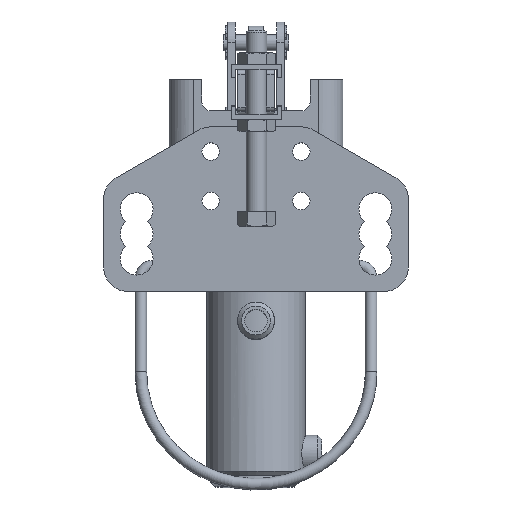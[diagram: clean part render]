
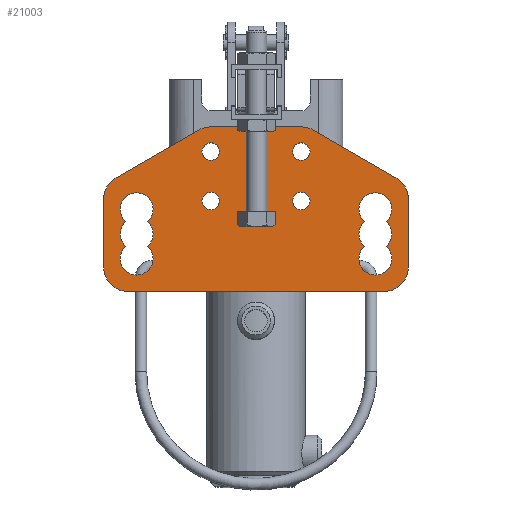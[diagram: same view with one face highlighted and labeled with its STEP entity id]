
A CAD part, top view. The second image highlights one B-rep face of the part: STEP entity #21003.
In plain terms, the highlighted planar face has unit normal (0, 0, 1).
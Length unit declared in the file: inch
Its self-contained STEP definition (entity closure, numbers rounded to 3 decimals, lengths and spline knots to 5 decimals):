
#20205=CARTESIAN_POINT('',(11.15658,1.92525,0.02831));
#20206=VERTEX_POINT('',#20205);
#20207=CARTESIAN_POINT('',(11.10422,1.92525,0.02831));
#20208=DIRECTION('',(0.0,0.0,1.0));
#20209=DIRECTION('',(0.0,1.0,0.0));
#20210=AXIS2_PLACEMENT_3D('',#20207,#20208,#20209);
#20211=CIRCLE('',#20210,0.05236);
#20212=EDGE_CURVE('',#20206,#20206,#20211,.T.);
#20233=CARTESIAN_POINT('',(10.61524,1.92525,0.02831));
#20234=VERTEX_POINT('',#20233);
#20235=CARTESIAN_POINT('',(10.56288,1.92525,0.02831));
#20236=DIRECTION('',(0.0,0.0,1.0));
#20237=DIRECTION('',(0.0,1.0,0.0));
#20238=AXIS2_PLACEMENT_3D('',#20235,#20236,#20237);
#20239=CIRCLE('',#20238,0.05236);
#20240=EDGE_CURVE('',#20234,#20234,#20239,.T.);
#20261=CARTESIAN_POINT('',(10.61524,1.62997,0.02831));
#20262=VERTEX_POINT('',#20261);
#20263=CARTESIAN_POINT('',(10.56288,1.62997,0.02831));
#20264=DIRECTION('',(0.0,0.0,1.0));
#20265=DIRECTION('',(0.0,1.0,0.0));
#20266=AXIS2_PLACEMENT_3D('',#20263,#20264,#20265);
#20267=CIRCLE('',#20266,0.05236);
#20268=EDGE_CURVE('',#20262,#20262,#20267,.T.);
#20289=CARTESIAN_POINT('',(10.18507,1.3593,0.02831));
#20290=VERTEX_POINT('',#20289);
#20291=CARTESIAN_POINT('',(10.18507,1.50694,0.02831));
#20292=VERTEX_POINT('',#20291);
#20293=CARTESIAN_POINT('',(10.11997,1.43312,0.02831));
#20294=DIRECTION('',(0.0,0.0,1.0));
#20295=DIRECTION('',(1.0,0.0,0.0));
#20296=AXIS2_PLACEMENT_3D('',#20293,#20294,#20295);
#20297=CIRCLE('',#20296,0.09843);
#20298=EDGE_CURVE('',#20290,#20292,#20297,.T.);
#20331=CARTESIAN_POINT('',(10.05487,1.50694,0.02831));
#20332=VERTEX_POINT('',#20331);
#20333=CARTESIAN_POINT('',(10.11997,1.58076,0.02831));
#20334=DIRECTION('',(0.0,0.0,1.0));
#20335=DIRECTION('',(0.0,1.0,0.0));
#20336=AXIS2_PLACEMENT_3D('',#20333,#20334,#20335);
#20337=CIRCLE('',#20336,0.09843);
#20338=EDGE_CURVE('',#20292,#20332,#20337,.T.);
#20364=CARTESIAN_POINT('',(10.05487,1.3593,0.02831));
#20365=VERTEX_POINT('',#20364);
#20366=CARTESIAN_POINT('',(10.11997,1.43312,0.02831));
#20367=DIRECTION('',(0.0,0.0,1.0));
#20368=DIRECTION('',(-1.0,0.0,0.0));
#20369=AXIS2_PLACEMENT_3D('',#20366,#20367,#20368);
#20370=CIRCLE('',#20369,0.09843);
#20371=EDGE_CURVE('',#20332,#20365,#20370,.T.);
#20397=CARTESIAN_POINT('',(10.11997,1.28548,0.02831));
#20398=DIRECTION('',(0.0,0.0,1.0));
#20399=DIRECTION('',(0.0,-1.0,0.0));
#20400=AXIS2_PLACEMENT_3D('',#20397,#20398,#20399);
#20401=CIRCLE('',#20400,0.09843);
#20402=EDGE_CURVE('',#20365,#20290,#20401,.T.);
#20421=CARTESIAN_POINT('',(11.15658,1.62997,0.02831));
#20422=VERTEX_POINT('',#20421);
#20423=CARTESIAN_POINT('',(11.10422,1.62997,0.02831));
#20424=DIRECTION('',(0.0,0.0,1.0));
#20425=DIRECTION('',(0.0,1.0,0.0));
#20426=AXIS2_PLACEMENT_3D('',#20423,#20424,#20425);
#20427=CIRCLE('',#20426,0.05236);
#20428=EDGE_CURVE('',#20422,#20422,#20427,.T.);
#20449=CARTESIAN_POINT('',(11.48203,1.50694,0.02831));
#20450=VERTEX_POINT('',#20449);
#20451=CARTESIAN_POINT('',(11.48203,1.3593,0.02831));
#20452=VERTEX_POINT('',#20451);
#20453=CARTESIAN_POINT('',(11.54713,1.43312,0.02831));
#20454=DIRECTION('',(0.0,0.0,1.0));
#20455=DIRECTION('',(-1.0,0.0,0.0));
#20456=AXIS2_PLACEMENT_3D('',#20453,#20454,#20455);
#20457=CIRCLE('',#20456,0.09843);
#20458=EDGE_CURVE('',#20450,#20452,#20457,.T.);
#20491=CARTESIAN_POINT('',(11.61224,1.3593,0.02831));
#20492=VERTEX_POINT('',#20491);
#20493=CARTESIAN_POINT('',(11.54713,1.28548,0.02831));
#20494=DIRECTION('',(0.0,0.0,1.0));
#20495=DIRECTION('',(0.0,-1.0,0.0));
#20496=AXIS2_PLACEMENT_3D('',#20493,#20494,#20495);
#20497=CIRCLE('',#20496,0.09843);
#20498=EDGE_CURVE('',#20452,#20492,#20497,.T.);
#20524=CARTESIAN_POINT('',(11.61224,1.50694,0.02831));
#20525=VERTEX_POINT('',#20524);
#20526=CARTESIAN_POINT('',(11.54713,1.43312,0.02831));
#20527=DIRECTION('',(0.0,0.0,1.0));
#20528=DIRECTION('',(1.0,0.0,0.0));
#20529=AXIS2_PLACEMENT_3D('',#20526,#20527,#20528);
#20530=CIRCLE('',#20529,0.09843);
#20531=EDGE_CURVE('',#20492,#20525,#20530,.T.);
#20557=CARTESIAN_POINT('',(11.54713,1.58076,0.02831));
#20558=DIRECTION('',(0.0,0.0,1.0));
#20559=DIRECTION('',(0.0,1.0,0.0));
#20560=AXIS2_PLACEMENT_3D('',#20557,#20558,#20559);
#20561=CIRCLE('',#20560,0.09843);
#20562=EDGE_CURVE('',#20525,#20450,#20561,.T.);
#20581=CARTESIAN_POINT('',(10.07075,1.08863,0.02831));
#20582=VERTEX_POINT('',#20581);
#20583=CARTESIAN_POINT('',(9.92312,1.23627,0.02831));
#20584=VERTEX_POINT('',#20583);
#20585=CARTESIAN_POINT('',(10.07075,1.23627,0.02831));
#20586=DIRECTION('',(0.0,0.0,-1.0));
#20587=DIRECTION('',(-0.707,-0.707,0.0));
#20588=AXIS2_PLACEMENT_3D('',#20585,#20586,#20587);
#20589=CIRCLE('',#20588,0.14764);
#20590=EDGE_CURVE('',#20582,#20584,#20589,.T.);
#20623=CARTESIAN_POINT('',(9.92312,1.64112,0.02831));
#20624=VERTEX_POINT('',#20623);
#20625=CARTESIAN_POINT('',(9.92312,1.23627,0.02831));
#20626=DIRECTION('',(0.0,1.0,0.0));
#20627=VECTOR('',#20626,0.40485);
#20628=LINE('',#20625,#20627);
#20629=EDGE_CURVE('',#20584,#20624,#20628,.T.);
#20654=CARTESIAN_POINT('',(9.99694,1.76897,0.02831));
#20655=VERTEX_POINT('',#20654);
#20656=CARTESIAN_POINT('',(10.07075,1.64112,0.02831));
#20657=DIRECTION('',(0.0,0.0,-1.0));
#20658=DIRECTION('',(-0.866,0.5,0.0));
#20659=AXIS2_PLACEMENT_3D('',#20656,#20657,#20658);
#20660=CIRCLE('',#20659,0.14764);
#20661=EDGE_CURVE('',#20624,#20655,#20660,.T.);
#20687=CARTESIAN_POINT('',(10.48906,2.0531,0.02831));
#20688=VERTEX_POINT('',#20687);
#20689=CARTESIAN_POINT('',(9.99694,1.76897,0.02831));
#20690=DIRECTION('',(0.866,0.5,0.0));
#20691=VECTOR('',#20690,0.56826);
#20692=LINE('',#20689,#20691);
#20693=EDGE_CURVE('',#20655,#20688,#20692,.T.);
#20718=CARTESIAN_POINT('',(10.56288,2.07288,0.02831));
#20719=VERTEX_POINT('',#20718);
#20720=CARTESIAN_POINT('',(10.56288,1.92525,0.02831));
#20721=DIRECTION('',(0.0,0.0,-1.0));
#20722=DIRECTION('',(-0.259,0.966,0.0));
#20723=AXIS2_PLACEMENT_3D('',#20720,#20721,#20722);
#20724=CIRCLE('',#20723,0.14764);
#20725=EDGE_CURVE('',#20688,#20719,#20724,.T.);
#20751=CARTESIAN_POINT('',(11.10422,2.07288,0.02831));
#20752=VERTEX_POINT('',#20751);
#20753=CARTESIAN_POINT('',(10.56288,2.07288,0.02831));
#20754=DIRECTION('',(1.0,0.0,0.0));
#20755=VECTOR('',#20754,0.54134);
#20756=LINE('',#20753,#20755);
#20757=EDGE_CURVE('',#20719,#20752,#20756,.T.);
#20782=CARTESIAN_POINT('',(11.17804,2.0531,0.02831));
#20783=VERTEX_POINT('',#20782);
#20784=CARTESIAN_POINT('',(11.10422,1.92525,0.02831));
#20785=DIRECTION('',(0.0,0.0,-1.0));
#20786=DIRECTION('',(0.259,0.966,0.0));
#20787=AXIS2_PLACEMENT_3D('',#20784,#20785,#20786);
#20788=CIRCLE('',#20787,0.14764);
#20789=EDGE_CURVE('',#20752,#20783,#20788,.T.);
#20815=CARTESIAN_POINT('',(11.67016,1.76897,0.02831));
#20816=VERTEX_POINT('',#20815);
#20817=CARTESIAN_POINT('',(11.17804,2.0531,0.02831));
#20818=DIRECTION('',(0.866,-0.5,0.0));
#20819=VECTOR('',#20818,0.56826);
#20820=LINE('',#20817,#20819);
#20821=EDGE_CURVE('',#20783,#20816,#20820,.T.);
#20846=CARTESIAN_POINT('',(11.74398,1.64112,0.02831));
#20847=VERTEX_POINT('',#20846);
#20848=CARTESIAN_POINT('',(11.59635,1.64112,0.02831));
#20849=DIRECTION('',(0.0,0.0,-1.0));
#20850=DIRECTION('',(0.866,0.5,0.0));
#20851=AXIS2_PLACEMENT_3D('',#20848,#20849,#20850);
#20852=CIRCLE('',#20851,0.14764);
#20853=EDGE_CURVE('',#20816,#20847,#20852,.T.);
#20879=CARTESIAN_POINT('',(11.74398,1.23627,0.02831));
#20880=VERTEX_POINT('',#20879);
#20881=CARTESIAN_POINT('',(11.74398,1.64112,0.02831));
#20882=DIRECTION('',(0.0,-1.0,0.0));
#20883=VECTOR('',#20882,0.40485);
#20884=LINE('',#20881,#20883);
#20885=EDGE_CURVE('',#20847,#20880,#20884,.T.);
#20910=CARTESIAN_POINT('',(11.59635,1.08863,0.02831));
#20911=VERTEX_POINT('',#20910);
#20912=CARTESIAN_POINT('',(11.59635,1.23627,0.02831));
#20913=DIRECTION('',(0.0,0.0,-1.0));
#20914=DIRECTION('',(0.707,-0.707,0.0));
#20915=AXIS2_PLACEMENT_3D('',#20912,#20913,#20914);
#20916=CIRCLE('',#20915,0.14764);
#20917=EDGE_CURVE('',#20880,#20911,#20916,.T.);
#20943=CARTESIAN_POINT('',(11.59635,1.08863,0.02831));
#20944=DIRECTION('',(-1.0,0.0,0.0));
#20945=VECTOR('',#20944,1.52559);
#20946=LINE('',#20943,#20945);
#20947=EDGE_CURVE('',#20911,#20582,#20946,.T.);
#20960=CARTESIAN_POINT('',(10.83355,1.51777,0.02831));
#20961=DIRECTION('',(0.0,0.0,1.0));
#20962=DIRECTION('',(1.0,0.0,0.0));
#20963=AXIS2_PLACEMENT_3D('',#20960,#20961,#20962);
#20964=PLANE('',#20963);
#20965=ORIENTED_EDGE('',*,*,#20590,.F.);
#20966=ORIENTED_EDGE('',*,*,#20947,.F.);
#20967=ORIENTED_EDGE('',*,*,#20917,.F.);
#20968=ORIENTED_EDGE('',*,*,#20885,.F.);
#20969=ORIENTED_EDGE('',*,*,#20853,.F.);
#20970=ORIENTED_EDGE('',*,*,#20821,.F.);
#20971=ORIENTED_EDGE('',*,*,#20789,.F.);
#20972=ORIENTED_EDGE('',*,*,#20757,.F.);
#20973=ORIENTED_EDGE('',*,*,#20725,.F.);
#20974=ORIENTED_EDGE('',*,*,#20693,.F.);
#20975=ORIENTED_EDGE('',*,*,#20661,.F.);
#20976=ORIENTED_EDGE('',*,*,#20629,.F.);
#20977=EDGE_LOOP('',(#20965,#20966,#20967,#20968,#20969,#20970,#20971,#20972,#20973,#20974,#20975,#20976));
#20978=FACE_OUTER_BOUND('',#20977,.T.);
#20979=ORIENTED_EDGE('',*,*,#20458,.F.);
#20980=ORIENTED_EDGE('',*,*,#20562,.F.);
#20981=ORIENTED_EDGE('',*,*,#20531,.F.);
#20982=ORIENTED_EDGE('',*,*,#20498,.F.);
#20983=EDGE_LOOP('',(#20979,#20980,#20981,#20982));
#20984=FACE_BOUND('',#20983,.T.);
#20985=ORIENTED_EDGE('',*,*,#20428,.F.);
#20986=EDGE_LOOP('',(#20985));
#20987=FACE_BOUND('',#20986,.T.);
#20988=ORIENTED_EDGE('',*,*,#20298,.F.);
#20989=ORIENTED_EDGE('',*,*,#20402,.F.);
#20990=ORIENTED_EDGE('',*,*,#20371,.F.);
#20991=ORIENTED_EDGE('',*,*,#20338,.F.);
#20992=EDGE_LOOP('',(#20988,#20989,#20990,#20991));
#20993=FACE_BOUND('',#20992,.T.);
#20994=ORIENTED_EDGE('',*,*,#20268,.F.);
#20995=EDGE_LOOP('',(#20994));
#20996=FACE_BOUND('',#20995,.T.);
#20997=ORIENTED_EDGE('',*,*,#20240,.F.);
#20998=EDGE_LOOP('',(#20997));
#20999=FACE_BOUND('',#20998,.T.);
#21000=ORIENTED_EDGE('',*,*,#20212,.F.);
#21001=EDGE_LOOP('',(#21000));
#21002=FACE_BOUND('',#21001,.T.);
#21003=ADVANCED_FACE('',(#20978,#20984,#20987,#20993,#20996,#20999,#21002),#20964,.T.);
